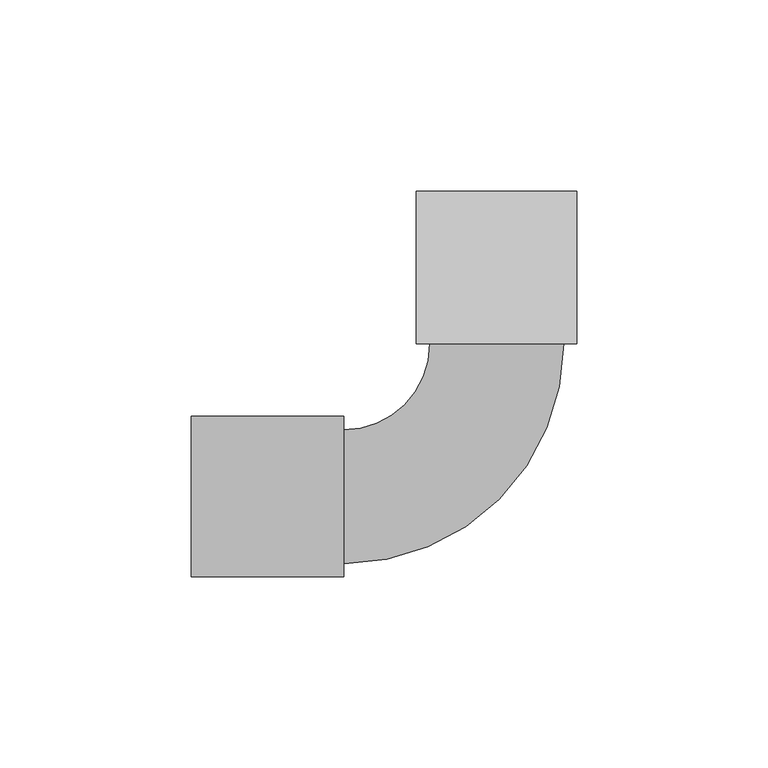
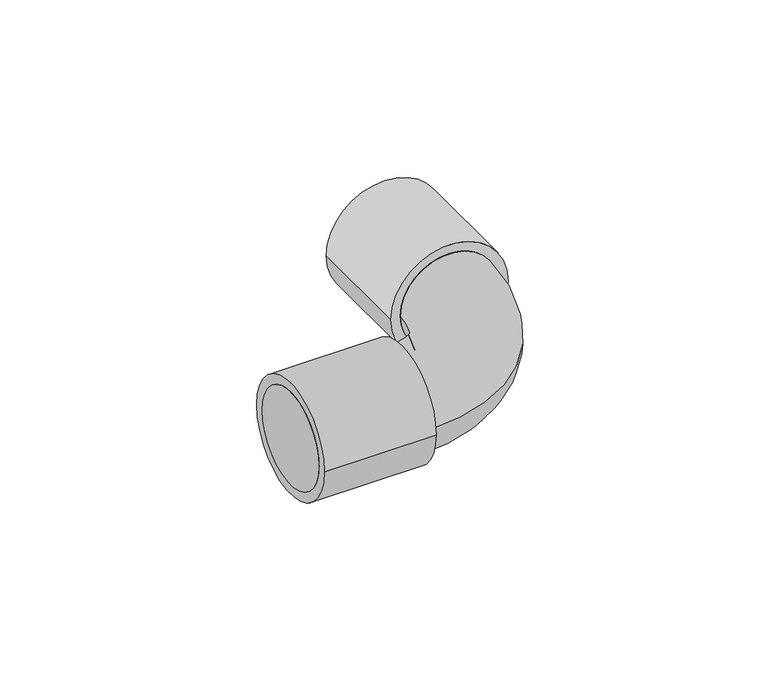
"""IFC4 building model written with IfcOpenShell, lengths in millimetres: cable carrier fitting geometry, Поворот на 90 труба-труба IP65 CS : Поворот на 90 труба-труба IP65 CS."""

from ifc_helpers import new_model, si_unit, point, frame, origin, origin_2d, place, context, project, spatial, circle_curve, ellipse_curve, trimmed, segment, composite_curve, outline, extrude, source, transform, mapped, element, save
from ifc_brep_helpers import plane_surface, cylinder_surface, revolved_surface, advanced_brep


def cable_carrier_fitting_46aa9863(model_context):
    return source(origin(), model_context, "Body", "SolidModel", [
        advanced_brep(
        [(-80.0, -17.5, 0.0), (-80.0, 17.5, 0.0), (-40.0, -17.5, 0.0), (-40.0, 17.5, 0.0), (-17.5, 40.0, 0.0), (17.5, 40.0, 0.0), (17.5, 80.0, 0.0), (-17.5, 80.0, 0.0)],
        [
            (0, 1, circle_curve(frame((-80.0, 0.0, 0.0), z_axis=(-1.0, 0.0, 0.0), x_axis=(0.0, 1.0, 0.0)), 17.5)),
            (1, 0, circle_curve(frame((-80.0, 0.0, 0.0), z_axis=(-1.0, 0.0, 0.0), x_axis=(0.0, 1.0, 0.0)), 17.5)),
            (0, 2),
            (2, 3, circle_curve(frame((-40.0, 0.0, 0.0), z_axis=(-1.0, 0.0, 0.0), x_axis=(0.0, 1.0, 0.0)), 17.5)),
            (3, 1),
            (3, 2, circle_curve(frame((-40.0, 0.0, 0.0), z_axis=(-1.0, 0.0, 0.0), x_axis=(0.0, 1.0, 0.0)), 17.5)),
            (4, 3, circle_curve(frame((-40.0, 40.0, 0.0), z_axis=(0.0, 0.0, -1.0), x_axis=(0.0, -1.0, 0.0)), 22.5)),
            (2, 5, circle_curve(frame((-40.0, 40.0, 0.0), z_axis=(0.0, 0.0, 1.0), x_axis=(0.0, -1.0, 0.0)), 57.5)),
            (5, 4, circle_curve(frame((0.0, 40.0, 0.0), z_axis=(0.0, -1.0, 0.0), x_axis=(-1.0, 0.0, 0.0)), 17.5)),
            (4, 5, circle_curve(frame((0.0, 40.0, 0.0), z_axis=(0.0, -1.0, 0.0), x_axis=(-1.0, 0.0, 0.0)), 17.5)),
            (6, 7, circle_curve(frame((0.0, 80.0, 0.0), z_axis=(0.0, 1.0, 0.0), x_axis=(-1.0, 0.0, 0.0)), 17.5)),
            (7, 6, circle_curve(frame((0.0, 80.0, 0.0), z_axis=(0.0, 1.0, 0.0), x_axis=(-1.0, 0.0, 0.0)), 17.5)),
            (5, 6),
            (7, 4),
        ],
        [
            plane_surface(frame((-80.0, 0.0, 0.0), z_axis=(-1.0, 0.0, 0.0), x_axis=(0.0, 0.0, 1.0))),
            cylinder_surface(frame((-80.0, 0.0, 0.0), z_axis=(-1.0, 0.0, 0.0), x_axis=(0.0, 1.0, 0.0)), 17.5),
            revolved_surface(trimmed(ellipse_curve(frame((-40.0, 0.0, 0.0), z_axis=(-1.0, 0.0, 0.0), x_axis=(0.0, 1.0, 0.0)), 17.5, 17.5), [point((-40.0, -17.5, 0.0))], [point((-40.0, 17.5, 0.0))], True, "CARTESIAN"), (-40.0, 40.0, 0.0), (0.0, 0.0, 1.0)),
            revolved_surface(trimmed(ellipse_curve(frame((-40.0, 0.0, 0.0), z_axis=(-1.0, 0.0, 0.0), x_axis=(0.0, 1.0, 0.0)), 17.5, 17.5), [point((-40.0, 17.5, 0.0))], [point((-40.0, -17.5, 0.0))], True, "CARTESIAN"), (-40.0, 40.0, 0.0), (0.0, 0.0, 1.0)),
            plane_surface(frame((0.0, 80.0, 0.0), z_axis=(0.0, 1.0, 0.0), x_axis=(0.0, 0.0, 1.0))),
            cylinder_surface(frame((0.0, 40.0, 0.0), z_axis=(0.0, -1.0, 0.0), x_axis=(-1.0, 0.0, 0.0)), 17.5),
        ],
        [
            (0, [[1, 2]]),
            (1, [[-1, 3, 4, 5]]),
            (1, [[-2, -5, 6, -3]]),
            (2, [[7, -4, 8, 9]]),
            (3, [[-8, -6, -7, 10]]),
            (4, [[11, 12]]),
            (5, [[-9, 13, -12, 14]]),
            (5, [[-10, -14, -11, -13]]),
        ],
    ),
        extrude(outline(composite_curve([segment(trimmed(circle_curve(origin_2d(), 21.0), [point((-21.0, 0.0))], [point((21.0, 0.0))], False, "CARTESIAN"), True, "CONTINUOUS"), segment(trimmed(circle_curve(origin_2d(), 21.0), [point((21.0, 0.0))], [point((-21.0, 0.0))], False, "CARTESIAN"), True, "CONTINUOUS")], self_intersect=False)), frame((-80.0, 0.0, 0.0), z_axis=(1.0, 0.0, 0.0), x_axis=(0.0, 1.0, 0.0)), (0.0, 0.0, 1.0), 40.0),
        extrude(outline(composite_curve([segment(trimmed(circle_curve(origin_2d(), 21.0), [point((0.0, 21.0))], [point((0.0, -21.0))], False, "CARTESIAN"), True, "CONTINUOUS"), segment(trimmed(circle_curve(origin_2d(), 21.0), [point((0.0, -21.0))], [point((0.0, 21.0))], False, "CARTESIAN"), True, "CONTINUOUS")], self_intersect=False)), frame((0.0, 40.0, 0.0), z_axis=(0.0, 1.0, 0.0), x_axis=(0.0, 0.0, 1.0)), (0.0, 0.0, 1.0), 40.0),
    ])


if __name__ == "__main__":
    model = new_model("IFC4")
    model_context = context("Model", 3, world=origin())
    ifc_project = project(units=[si_unit("LENGTHUNIT", "METRE", prefix="MILLI")], contexts=[model_context])
    site = spatial("IfcSite", under=ifc_project)
    building = spatial("IfcBuilding", under=site)
    placement = place(None, origin())
    cable_carrier_fitting_shape = cable_carrier_fitting_46aa9863(model_context)
    element("IfcCableCarrierFitting", 1, ObjectType="Поворот на 90 труба-труба IP65 CS : Поворот на 90 труба-труба IP65 CS", at=placement, inside=building, context=model_context, shape_type="MappedRepresentation", body=[
        mapped(cable_carrier_fitting_shape, transform((0.0, 0.0, 0.0), x_axis=(1.0, 0.0, 0.0), y_axis=(0.0, 1.0, 0.0), z_axis=(0.0, 0.0, 1.0))),
    ])
    save(model, "model.ifc")
